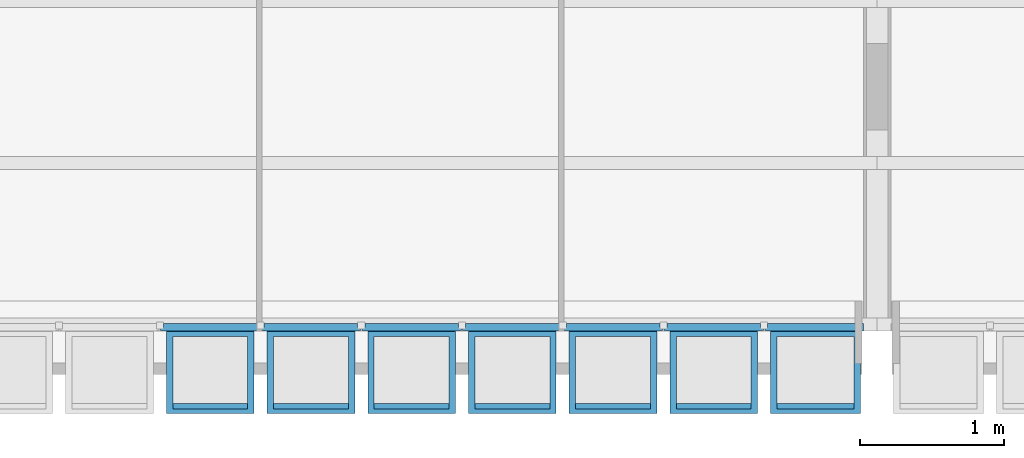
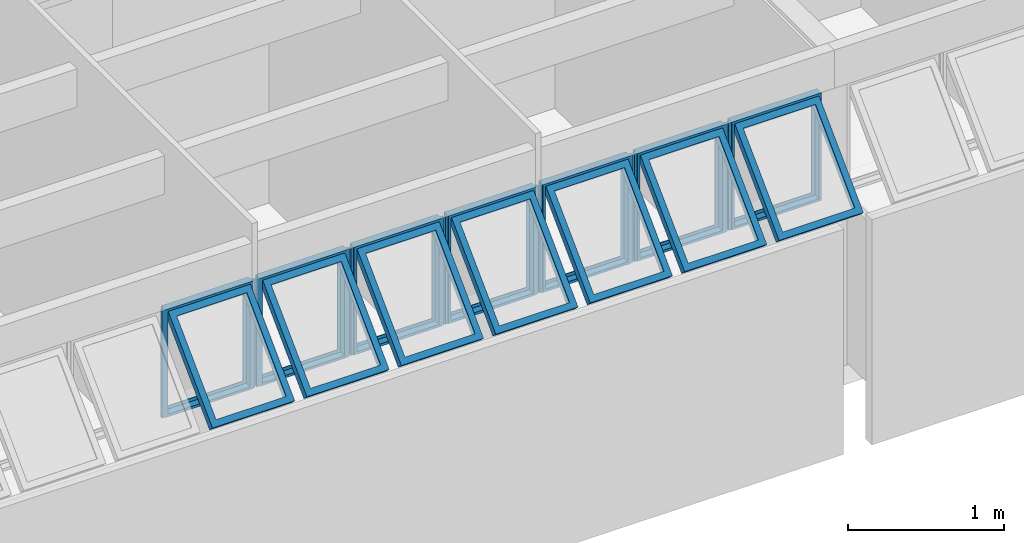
# One storey, part 27 of 37: 7 building element parts, 8 elements without a shape of their own.
"""IFC2X3 building model written with IfcOpenShell, lengths in millimetres."""

from ifc_helpers import new_model, entity, si_unit, converted_unit, derived_unit, money_unit, direction, frame, origin_with_axes, place, context, subcontext, project, spatial, faceted_brep, source, transform, mapped, material, type_object, element, aggregate, save


model = new_model("IFC2X3")

# Units and contexts
model_context = context("Model", 3, precision=0.01, world=origin_with_axes(), true_north=direction((0.0, 1.0)))
body_context = subcontext(model_context, "Body", "Model", "MODEL_VIEW")
ifc_project = project(units=[si_unit("LENGTHUNIT", "METRE", prefix="MILLI"), si_unit("AREAUNIT", "SQUARE_METRE"), si_unit("VOLUMEUNIT", "CUBIC_METRE"), converted_unit("PLANEANGLEUNIT", "DEGREE", entity("IfcPlaneAngleMeasure", 0.0174532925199), si_unit("PLANEANGLEUNIT", "RADIAN"), dimensions=[0, 0, 0, 0, 0, 0, 0]), money_unit("USD"), converted_unit("TIMEUNIT", "Year", entity("IfcTimeMeasure", 31556926.0), si_unit("TIMEUNIT", "SECOND"), dimensions=[0, 0, 1, 0, 0, 0, 0]), si_unit("MASSUNIT", "GRAM", prefix="KILO"), si_unit("THERMODYNAMICTEMPERATUREUNIT", "DEGREE_CELSIUS"), si_unit("LUMINOUSINTENSITYUNIT", "LUMEN"), si_unit("ENERGYUNIT", "JOULE", prefix="MEGA"), derived_unit("THERMALCONDUCTANCEUNIT", [(si_unit("POWERUNIT", "WATT"), 1), (si_unit("LENGTHUNIT", "METRE"), -1), (si_unit("THERMODYNAMICTEMPERATUREUNIT", "KELVIN"), -1)]), derived_unit("SPECIFICHEATCAPACITYUNIT", [(si_unit("ENERGYUNIT", "JOULE"), 1), (si_unit("MASSUNIT", "GRAM", prefix="KILO"), -1), (si_unit("THERMODYNAMICTEMPERATUREUNIT", "KELVIN"), -1)]), derived_unit("MASSDENSITYUNIT", [(si_unit("MASSUNIT", "GRAM", prefix="KILO"), 1), (si_unit("VOLUMEUNIT", "CUBIC_METRE"), -1)])], contexts=[model_context])

# Site, building, storey
site_placement = place(None, origin_with_axes())
site = spatial("IfcSite", under=ifc_project, at=site_placement, Name="Local", CompositionType="ELEMENT")
building_placement = place(site_placement, origin_with_axes())
building = spatial("IfcBuilding", under=site, at=building_placement, Name="Construção", CompositionType="ELEMENT")
storey_placement = place(building_placement, frame((0.0, 0.0, 5300.0), z_axis=(0.0, 0.0, 1.0), x_axis=(1.0, 0.0, 0.0)))
storey = spatial("IfcBuildingStorey", under=building, at=storey_placement, Name="Terceiro Pavimento", CompositionType="ELEMENT", Elevation=5300.0)

# Window, plates, building element parts
window_style = type_object("IfcWindowStyle", Name="Tipo de Parede Cortina", ConstructionType="NOTDEFINED", OperationType="NOTDEFINED", ParameterTakesPrecedence=False, Sizeable=False)
window_placement = place(storey_placement, frame((6250.0, 315.020977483, 1355.02054151), z_axis=(0.0, 0.0, 1.0), x_axis=(1.0, 0.0, 0.0)))
window = element("IfcWindow", 1, at=window_placement, inside=storey, type_object=window_style, Name="APTO9-JANELA-001")
plate_type_1 = type_object("IfcPlateType", Name="Painel Principal 690 x 845 x 20", PredefinedType="CURTAIN_PANEL")
plate_1_placement = place(window_placement, frame((0.0, 0.0, 422.499945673), z_axis=(0.0, 0.0, 1.0), x_axis=(-1.0, 0.0, 0.0)))
plate_1 = element("IfcPlate", 2, at=plate_1_placement, type_object=plate_type_1, Name="APTO9-Painel-Prin-030")
ifc_material = material(Name="Alumínio")
shared_shape_1 = source(origin_with_axes(), body_context, "Body", "Brep", [
    faceted_brep([(25.0000036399, 0.0, -40.0), (674.999997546, 0.0, -40.0), (674.999997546, 0.0, -35.0), (25.0000036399, 0.0, -35.0), (70.0000036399, 45.0, -40.0), (629.999997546, 45.0, -40.0), (629.999997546, 45.0, -35.0), (70.0000036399, 45.0, -35.0)], [[[0, 1, 2, 3]], [[0, 4, 5, 1]], [[1, 5, 6, 2]], [[3, 2, 6, 7]], [[4, 0, 3, 7]], [[5, 4, 7, 6]]]),
    faceted_brep([(674.999997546, 0.0, -40.0), (674.999997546, 844.999891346, -40.0), (674.999997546, 844.999891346, -35.0), (674.999997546, 0.0, -35.0), (629.999997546, 45.0, -40.0), (629.999997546, 799.999891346, -40.0), (629.999997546, 799.999891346, -35.0), (629.999997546, 45.0, -35.0)], [[[0, 1, 2, 3]], [[0, 4, 5, 1]], [[1, 5, 6, 2]], [[3, 2, 6, 7]], [[4, 0, 3, 7]], [[5, 4, 7, 6]]]),
    faceted_brep([(25.0000036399, 844.999891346, -40.0), (70.0000036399, 799.999891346, -40.0), (70.0000036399, 799.999891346, -35.0), (25.0000036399, 844.999891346, -35.0), (674.999997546, 844.999891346, -40.0), (629.999997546, 799.999891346, -40.0), (629.999997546, 799.999891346, -35.0), (674.999997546, 844.999891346, -35.0)], [[[0, 1, 2, 3]], [[0, 4, 5, 1]], [[1, 5, 6, 2]], [[3, 2, 6, 7]], [[4, 0, 3, 7]], [[5, 4, 7, 6]]]),
    faceted_brep([(25.0000036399, 0.0, -40.0), (70.0000036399, 45.0, -40.0), (70.0000036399, 45.0, -35.0), (25.0000036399, 0.0, -35.0), (25.0000036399, 844.999891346, -40.0), (70.0000036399, 799.999891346, -40.0), (70.0000036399, 799.999891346, -35.0), (25.0000036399, 844.999891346, -35.0)], [[[0, 1, 2, 3]], [[0, 4, 5, 1]], [[1, 5, 6, 2]], [[3, 2, 6, 7]], [[4, 0, 3, 7]], [[5, 4, 7, 6]]]),
    faceted_brep([(25.0000036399, 0.0, -35.0), (674.999997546, 0.0, -35.0), (674.999997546, 0.0, 15.0), (25.0000036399, 0.0, 15.0), (45.0000036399, 20.0, -35.0), (654.999997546, 20.0, -35.0), (654.999997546, 20.0, 15.0), (45.0000036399, 20.0, 15.0)], [[[0, 1, 2, 3]], [[0, 4, 5, 1]], [[1, 5, 6, 2]], [[3, 2, 6, 7]], [[4, 0, 3, 7]], [[5, 4, 7, 6]]]),
    faceted_brep([(674.999997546, 0.0, -35.0), (674.999997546, 844.999891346, -35.0), (674.999997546, 844.999891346, 15.0), (674.999997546, 0.0, 15.0), (654.999997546, 20.0, -35.0), (654.999997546, 824.999891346, -35.0), (654.999997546, 824.999891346, 15.0), (654.999997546, 20.0, 15.0)], [[[0, 1, 2, 3]], [[0, 4, 5, 1]], [[1, 5, 6, 2]], [[3, 2, 6, 7]], [[4, 0, 3, 7]], [[5, 4, 7, 6]]]),
    faceted_brep([(25.0000036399, 844.999891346, -35.0), (45.0000036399, 824.999891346, -35.0), (45.0000036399, 824.999891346, 15.0), (25.0000036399, 844.999891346, 15.0), (674.999997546, 844.999891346, -35.0), (654.999997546, 824.999891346, -35.0), (654.999997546, 824.999891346, 15.0), (674.999997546, 844.999891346, 15.0)], [[[0, 1, 2, 3]], [[0, 4, 5, 1]], [[1, 5, 6, 2]], [[3, 2, 6, 7]], [[4, 0, 3, 7]], [[5, 4, 7, 6]]]),
    faceted_brep([(25.0000036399, 0.0, -35.0), (45.0000036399, 20.0, -35.0), (45.0000036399, 20.0, 15.0), (25.0000036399, 0.0, 15.0), (25.0000036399, 844.999891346, -35.0), (45.0000036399, 824.999891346, -35.0), (45.0000036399, 824.999891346, 15.0), (25.0000036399, 844.999891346, 15.0)], [[[0, 1, 2, 3]], [[0, 4, 5, 1]], [[1, 5, 6, 2]], [[3, 2, 6, 7]], [[4, 0, 3, 7]], [[5, 4, 7, 6]]]),
    faceted_brep([(694.999995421, 0.0, -10.0), (694.999995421, 844.999891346, -10.0), (694.999995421, 844.999891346, 10.0), (694.999995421, 0.0, 10.0), (674.999997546, 0.0, -10.0), (674.999997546, 844.999891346, -10.0), (674.999997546, 844.999891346, 10.0), (674.999997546, 0.0, 10.0)], [[[0, 1, 2, 3]], [[0, 4, 5, 1]], [[1, 5, 6, 2]], [[3, 2, 6, 7]], [[4, 0, 3, 7]], [[5, 4, 7, 6]]]),
    faceted_brep([(5.00000576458, 844.999891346, -10.0), (5.00000576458, 0.0, -10.0), (5.00000576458, 0.0, 10.0), (5.00000576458, 844.999891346, 10.0), (25.0000036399, 844.999891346, -10.0), (25.0000036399, 0.0, -10.0), (25.0000036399, 0.0, 10.0), (25.0000036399, 844.999891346, 10.0)], [[[0, 1, 2, 3]], [[0, 4, 5, 1]], [[1, 5, 6, 2]], [[3, 2, 6, 7]], [[4, 0, 3, 7]], [[5, 4, 7, 6]]]),
    faceted_brep([(90.0000036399, 252.243475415, 517.045737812), (90.0000036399, 757.824747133, 11.4644660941), (90.0000036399, 796.715620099, 50.3553390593), (90.0000036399, 291.13434838, 555.936610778), (45.0000036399, 220.423670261, 548.865542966), (45.0000036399, 789.644552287, -20.3553390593), (45.0000036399, 828.535425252, 18.5355339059), (45.0000036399, 259.314543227, 587.756415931)], [[[0, 1, 2, 3]], [[0, 4, 5, 1]], [[1, 5, 6, 2]], [[3, 2, 6, 7]], [[4, 0, 3, 7]], [[5, 4, 7, 6]]]),
    faceted_brep([(654.999997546, 220.423670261, 548.865542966), (654.999997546, 789.644552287, -20.3553390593), (654.999997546, 828.535425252, 18.5355339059), (654.999997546, 259.314543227, 587.756415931), (609.999997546, 252.243475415, 517.045737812), (609.999997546, 757.824747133, 11.4644660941), (609.999997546, 796.715620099, 50.3553390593), (609.999997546, 291.13434838, 555.936610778)], [[[0, 1, 2, 3]], [[0, 4, 5, 1]], [[1, 5, 6, 2]], [[3, 2, 6, 7]], [[4, 0, 3, 7]], [[5, 4, 7, 6]]]),
    faceted_brep([(654.999997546, 220.423670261, 548.865542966), (609.999997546, 252.243475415, 517.045737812), (609.999997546, 291.13434838, 555.936610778), (654.999997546, 259.314543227, 587.756415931), (45.0000036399, 220.423670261, 548.865542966), (90.0000036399, 252.243475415, 517.045737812), (90.0000036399, 291.13434838, 555.936610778), (45.0000036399, 259.314543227, 587.756415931)], [[[0, 1, 2, 3]], [[0, 4, 5, 1]], [[1, 5, 6, 2]], [[3, 2, 6, 7]], [[4, 0, 3, 7]], [[5, 4, 7, 6]]]),
    faceted_brep([(45.0000036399, 789.644552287, -20.3553390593), (90.0000036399, 757.824747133, 11.4644660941), (90.0000036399, 796.715620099, 50.3553390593), (45.0000036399, 828.535425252, 18.5355339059), (654.999997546, 789.644552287, -20.3553390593), (609.999997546, 757.824747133, 11.4644660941), (609.999997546, 796.715620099, 50.3553390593), (654.999997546, 828.535425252, 18.5355339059)], [[[0, 1, 2, 3]], [[0, 4, 5, 1]], [[1, 5, 6, 2]], [[3, 2, 6, 7]], [[4, 0, 3, 7]], [[5, 4, 7, 6]]]),
])
building_element_part_1_placement = place(plate_1_placement, origin_with_axes())
building_element_part_1 = element("IfcBuildingElementPart", 3, at=building_element_part_1_placement, material=ifc_material, Name="Alumínio", context=body_context, shape_type="MappedRepresentation", body=[
    mapped(shared_shape_1, transform((350.0, 0.0, -422.499945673), x_axis=(-1.0, 0.0, 0.0), y_axis=(0.0, 0.0, 1.0), z_axis=(0.0, 1.0, 0.0))),
])
aggregate(plate_1, [building_element_part_1])
plate_2_placement = place(window_placement, frame((-700.0, 0.0, 422.499945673), z_axis=(0.0, 0.0, 1.0), x_axis=(-1.0, 0.0, 0.0)))
plate_2 = element("IfcPlate", 4, at=plate_2_placement, type_object=plate_type_1, Name="APTO9-Painel-Prin-020")
building_element_part_2_placement = place(plate_2_placement, origin_with_axes())
building_element_part_2 = element("IfcBuildingElementPart", 5, at=building_element_part_2_placement, material=ifc_material, Name="Alumínio", context=body_context, shape_type="MappedRepresentation", body=[
    mapped(shared_shape_1, transform((350.0, 0.0, -422.499945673), x_axis=(-1.0, 0.0, 0.0), y_axis=(0.0, 0.0, 1.0), z_axis=(0.0, 1.0, 0.0))),
])
aggregate(plate_2, [building_element_part_2])
plate_3_placement = place(window_placement, frame((-1400.0, 0.0, 422.499945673), z_axis=(0.0, 0.0, 1.0), x_axis=(-1.0, 0.0, 0.0)))
plate_3 = element("IfcPlate", 6, at=plate_3_placement, type_object=plate_type_1, Name="APTO9-Painel-Prin-029")
building_element_part_3_placement = place(plate_3_placement, origin_with_axes())
building_element_part_3 = element("IfcBuildingElementPart", 7, at=building_element_part_3_placement, material=ifc_material, Name="Alumínio", context=body_context, shape_type="MappedRepresentation", body=[
    mapped(shared_shape_1, transform((350.0, 0.0, -422.499945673), x_axis=(-1.0, 0.0, 0.0), y_axis=(0.0, 0.0, 1.0), z_axis=(0.0, 1.0, 0.0))),
])
aggregate(plate_3, [building_element_part_3])
plate_4_placement = place(window_placement, frame((-3500.0, 0.0, 422.499945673), z_axis=(0.0, 0.0, 1.0), x_axis=(-1.0, 0.0, 0.0)))
plate_4 = element("IfcPlate", 8, at=plate_4_placement, type_object=plate_type_1, Name="APTO9-Painel-Prin-013")
building_element_part_4_placement = place(plate_4_placement, origin_with_axes())
building_element_part_4 = element("IfcBuildingElementPart", 9, at=building_element_part_4_placement, material=ifc_material, Name="Alumínio", context=body_context, shape_type="MappedRepresentation", body=[
    mapped(shared_shape_1, transform((350.0, 0.0, -422.499945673), x_axis=(-1.0, 0.0, 0.0), y_axis=(0.0, 0.0, 1.0), z_axis=(0.0, 1.0, 0.0))),
])
aggregate(plate_4, [building_element_part_4])
plate_type_2 = type_object("IfcPlateType", Name="Painel Principal 685 x 845 x 20", PredefinedType="CURTAIN_PANEL")
plate_5_placement = place(window_placement, frame((695.000037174, 0.0, 422.499953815), z_axis=(0.0, 0.0, 1.0), x_axis=(-1.0, 0.0, 0.0)))
plate_5 = element("IfcPlate", 10, at=plate_5_placement, type_object=plate_type_2, Name="APTO9-Painel-Prin-031")
shared_shape_2 = source(origin_with_axes(), body_context, "Body", "Brep", [
    faceted_brep([(25.0000046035, 0.0, -40.0), (690.000079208, 0.0, -40.0), (690.000079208, 0.0, -35.0), (25.0000046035, 0.0, -35.0), (70.0000046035, 45.0, -40.0), (645.000079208, 45.0, -40.0), (645.000079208, 45.0, -35.0), (70.0000046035, 45.0, -35.0)], [[[0, 1, 2, 3]], [[0, 4, 5, 1]], [[1, 5, 6, 2]], [[3, 2, 6, 7]], [[4, 0, 3, 7]], [[5, 4, 7, 6]]]),
    faceted_brep([(690.000079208, 0.0, -40.0), (690.000079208, 844.999923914, -40.0), (690.000079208, 844.999923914, -35.0), (690.000079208, 0.0, -35.0), (645.000079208, 45.0, -40.0), (645.000079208, 799.999923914, -40.0), (645.000079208, 799.999923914, -35.0), (645.000079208, 45.0, -35.0)], [[[0, 1, 2, 3]], [[0, 4, 5, 1]], [[1, 5, 6, 2]], [[3, 2, 6, 7]], [[4, 0, 3, 7]], [[5, 4, 7, 6]]]),
    faceted_brep([(25.0000046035, 844.999923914, -40.0), (70.0000046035, 799.999923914, -40.0), (70.0000046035, 799.999923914, -35.0), (25.0000046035, 844.999923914, -35.0), (690.000079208, 844.999923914, -40.0), (645.000079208, 799.999923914, -40.0), (645.000079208, 799.999923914, -35.0), (690.000079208, 844.999923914, -35.0)], [[[0, 1, 2, 3]], [[0, 4, 5, 1]], [[1, 5, 6, 2]], [[3, 2, 6, 7]], [[4, 0, 3, 7]], [[5, 4, 7, 6]]]),
    faceted_brep([(25.0000046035, 0.0, -40.0), (70.0000046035, 45.0, -40.0), (70.0000046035, 45.0, -35.0), (25.0000046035, 0.0, -35.0), (25.0000046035, 844.999923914, -40.0), (70.0000046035, 799.999923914, -40.0), (70.0000046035, 799.999923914, -35.0), (25.0000046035, 844.999923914, -35.0)], [[[0, 1, 2, 3]], [[0, 4, 5, 1]], [[1, 5, 6, 2]], [[3, 2, 6, 7]], [[4, 0, 3, 7]], [[5, 4, 7, 6]]]),
    faceted_brep([(25.0000046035, 0.0, -35.0), (690.000079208, 0.0, -35.0), (690.000079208, 0.0, 15.0), (25.0000046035, 0.0, 15.0), (45.0000046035, 20.0, -35.0), (670.000079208, 20.0, -35.0), (670.000079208, 20.0, 15.0), (45.0000046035, 20.0, 15.0)], [[[0, 1, 2, 3]], [[0, 4, 5, 1]], [[1, 5, 6, 2]], [[3, 2, 6, 7]], [[4, 0, 3, 7]], [[5, 4, 7, 6]]]),
    faceted_brep([(690.000079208, 0.0, -35.0), (690.000079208, 844.999923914, -35.0), (690.000079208, 844.999923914, 15.0), (690.000079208, 0.0, 15.0), (670.000079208, 20.0, -35.0), (670.000079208, 824.999923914, -35.0), (670.000079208, 824.999923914, 15.0), (670.000079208, 20.0, 15.0)], [[[0, 1, 2, 3]], [[0, 4, 5, 1]], [[1, 5, 6, 2]], [[3, 2, 6, 7]], [[4, 0, 3, 7]], [[5, 4, 7, 6]]]),
    faceted_brep([(25.0000046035, 844.999923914, -35.0), (45.0000046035, 824.999923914, -35.0), (45.0000046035, 824.999923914, 15.0), (25.0000046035, 844.999923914, 15.0), (690.000079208, 844.999923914, -35.0), (670.000079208, 824.999923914, -35.0), (670.000079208, 824.999923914, 15.0), (690.000079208, 844.999923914, 15.0)], [[[0, 1, 2, 3]], [[0, 4, 5, 1]], [[1, 5, 6, 2]], [[3, 2, 6, 7]], [[4, 0, 3, 7]], [[5, 4, 7, 6]]]),
    faceted_brep([(25.0000046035, 0.0, -35.0), (45.0000046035, 20.0, -35.0), (45.0000046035, 20.0, 15.0), (25.0000046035, 0.0, 15.0), (25.0000046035, 844.999923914, -35.0), (45.0000046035, 824.999923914, -35.0), (45.0000046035, 824.999923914, 15.0), (25.0000046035, 844.999923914, 15.0)], [[[0, 1, 2, 3]], [[0, 4, 5, 1]], [[1, 5, 6, 2]], [[3, 2, 6, 7]], [[4, 0, 3, 7]], [[5, 4, 7, 6]]]),
    faceted_brep([(5.00000595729, 844.999923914, -10.0), (5.00000595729, 0.0, -10.0), (5.00000595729, 0.0, 10.0), (5.00000595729, 844.999923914, 10.0), (25.0000046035, 844.999923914, -10.0), (25.0000046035, 0.0, -10.0), (25.0000046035, 0.0, 10.0), (25.0000046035, 844.999923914, 10.0)], [[[0, 1, 2, 3]], [[0, 4, 5, 1]], [[1, 5, 6, 2]], [[3, 2, 6, 7]], [[4, 0, 3, 7]], [[5, 4, 7, 6]]]),
    faceted_brep([(90.0000046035, 252.243484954, 517.045760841), (90.0000046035, 757.824779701, 11.4644660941), (90.0000046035, 796.715652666, 50.3553390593), (90.0000046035, 291.134357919, 555.936633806), (45.0000046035, 220.4236798, 548.865565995), (45.0000046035, 789.644584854, -20.3553390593), (45.0000046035, 828.535457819, 18.5355339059), (45.0000046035, 259.314552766, 587.75643896)], [[[0, 1, 2, 3]], [[0, 4, 5, 1]], [[1, 5, 6, 2]], [[3, 2, 6, 7]], [[4, 0, 3, 7]], [[5, 4, 7, 6]]]),
    faceted_brep([(670.000079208, 220.4236798, 548.865565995), (670.000079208, 789.644584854, -20.3553390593), (670.000079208, 828.535457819, 18.5355339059), (670.000079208, 259.314552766, 587.75643896), (625.000079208, 252.243484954, 517.045760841), (625.000079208, 757.824779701, 11.4644660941), (625.000079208, 796.715652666, 50.3553390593), (625.000079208, 291.134357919, 555.936633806)], [[[0, 1, 2, 3]], [[0, 4, 5, 1]], [[1, 5, 6, 2]], [[3, 2, 6, 7]], [[4, 0, 3, 7]], [[5, 4, 7, 6]]]),
    faceted_brep([(670.000079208, 220.4236798, 548.865565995), (625.000079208, 252.243484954, 517.045760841), (625.000079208, 291.134357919, 555.936633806), (670.000079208, 259.314552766, 587.75643896), (45.0000046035, 220.4236798, 548.865565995), (90.0000046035, 252.243484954, 517.045760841), (90.0000046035, 291.134357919, 555.936633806), (45.0000046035, 259.314552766, 587.75643896)], [[[0, 1, 2, 3]], [[0, 4, 5, 1]], [[1, 5, 6, 2]], [[3, 2, 6, 7]], [[4, 0, 3, 7]], [[5, 4, 7, 6]]]),
    faceted_brep([(45.0000046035, 789.644584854, -20.3553390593), (90.0000046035, 757.824779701, 11.4644660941), (90.0000046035, 796.715652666, 50.3553390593), (45.0000046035, 828.535457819, 18.5355339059), (670.000079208, 789.644584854, -20.3553390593), (625.000079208, 757.824779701, 11.4644660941), (625.000079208, 796.715652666, 50.3553390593), (670.000079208, 828.535457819, 18.5355339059)], [[[0, 1, 2, 3]], [[0, 4, 5, 1]], [[1, 5, 6, 2]], [[3, 2, 6, 7]], [[4, 0, 3, 7]], [[5, 4, 7, 6]]]),
])
building_element_part_5_placement = place(plate_5_placement, origin_with_axes())
building_element_part_5 = element("IfcBuildingElementPart", 11, at=building_element_part_5_placement, material=ifc_material, Name="Alumínio", context=body_context, shape_type="MappedRepresentation", body=[
    mapped(shared_shape_2, transform((345.000037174, 0.0, -422.499953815), x_axis=(-1.0, 0.0, 0.0), y_axis=(0.0, 0.0, 1.0), z_axis=(0.0, 1.0, 0.0))),
])
aggregate(plate_5, [building_element_part_5])
plate_6_placement = place(window_placement, frame((-2100.0, 0.0, 422.499945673), z_axis=(0.0, 0.0, 1.0), x_axis=(-1.0, 0.0, 0.0)))
plate_6 = element("IfcPlate", 12, at=plate_6_placement, type_object=plate_type_1, Name="APTO9-Painel-Prin-025")
shared_shape_3 = source(origin_with_axes(), body_context, "Body", "Brep", [
    faceted_brep([(25.0000036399, 0.0, -40.0), (674.999997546, 0.0, -40.0), (674.999997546, 0.0, -35.0), (25.0000036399, 0.0, -35.0), (70.0000036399, 45.0, -40.0), (629.999997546, 45.0, -40.0), (629.999997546, 45.0, -35.0), (70.0000036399, 45.0, -35.0)], [[[0, 1, 2, 3]], [[0, 4, 5, 1]], [[1, 5, 6, 2]], [[3, 2, 6, 7]], [[4, 0, 3, 7]], [[5, 4, 7, 6]]]),
    faceted_brep([(674.999997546, 0.0, -40.0), (674.999997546, 844.999891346, -40.0), (674.999997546, 844.999891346, -35.0), (674.999997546, 0.0, -35.0), (629.999997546, 45.0, -40.0), (629.999997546, 799.999891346, -40.0), (629.999997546, 799.999891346, -35.0), (629.999997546, 45.0, -35.0)], [[[0, 1, 2, 3]], [[0, 4, 5, 1]], [[1, 5, 6, 2]], [[3, 2, 6, 7]], [[4, 0, 3, 7]], [[5, 4, 7, 6]]]),
    faceted_brep([(25.0000036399, 844.999891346, -40.0), (70.0000036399, 799.999891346, -40.0), (70.0000036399, 799.999891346, -35.0), (25.0000036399, 844.999891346, -35.0), (674.999997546, 844.999891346, -40.0), (629.999997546, 799.999891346, -40.0), (629.999997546, 799.999891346, -35.0), (674.999997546, 844.999891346, -35.0)], [[[0, 1, 2, 3]], [[0, 4, 5, 1]], [[1, 5, 6, 2]], [[3, 2, 6, 7]], [[4, 0, 3, 7]], [[5, 4, 7, 6]]]),
    faceted_brep([(25.0000036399, 0.0, -40.0), (70.0000036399, 45.0, -40.0), (70.0000036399, 45.0, -35.0), (25.0000036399, 0.0, -35.0), (25.0000036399, 844.999891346, -40.0), (70.0000036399, 799.999891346, -40.0), (70.0000036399, 799.999891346, -35.0), (25.0000036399, 844.999891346, -35.0)], [[[0, 1, 2, 3]], [[0, 4, 5, 1]], [[1, 5, 6, 2]], [[3, 2, 6, 7]], [[4, 0, 3, 7]], [[5, 4, 7, 6]]]),
    faceted_brep([(25.0000036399, 0.0, -35.0), (674.999997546, 0.0, -35.0), (674.999997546, 0.0, 15.0), (25.0000036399, 0.0, 15.0), (45.0000036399, 20.0, -35.0), (654.999997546, 20.0, -35.0), (654.999997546, 20.0, 15.0), (45.0000036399, 20.0, 15.0)], [[[0, 1, 2, 3]], [[0, 4, 5, 1]], [[1, 5, 6, 2]], [[3, 2, 6, 7]], [[4, 0, 3, 7]], [[5, 4, 7, 6]]]),
    faceted_brep([(674.999997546, 0.0, -35.0), (674.999997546, 844.999891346, -35.0), (674.999997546, 844.999891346, 15.0), (674.999997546, 0.0, 15.0), (654.999997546, 20.0, -35.0), (654.999997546, 824.999891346, -35.0), (654.999997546, 824.999891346, 15.0), (654.999997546, 20.0, 15.0)], [[[0, 1, 2, 3]], [[0, 4, 5, 1]], [[1, 5, 6, 2]], [[3, 2, 6, 7]], [[4, 0, 3, 7]], [[5, 4, 7, 6]]]),
    faceted_brep([(25.0000036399, 844.999891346, -35.0), (45.0000036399, 824.999891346, -35.0), (45.0000036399, 824.999891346, 15.0), (25.0000036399, 844.999891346, 15.0), (674.999997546, 844.999891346, -35.0), (654.999997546, 824.999891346, -35.0), (654.999997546, 824.999891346, 15.0), (674.999997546, 844.999891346, 15.0)], [[[0, 1, 2, 3]], [[0, 4, 5, 1]], [[1, 5, 6, 2]], [[3, 2, 6, 7]], [[4, 0, 3, 7]], [[5, 4, 7, 6]]]),
    faceted_brep([(25.0000036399, 0.0, -35.0), (45.0000036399, 20.0, -35.0), (45.0000036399, 20.0, 15.0), (25.0000036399, 0.0, 15.0), (25.0000036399, 844.999891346, -35.0), (45.0000036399, 824.999891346, -35.0), (45.0000036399, 824.999891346, 15.0), (25.0000036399, 844.999891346, 15.0)], [[[0, 1, 2, 3]], [[0, 4, 5, 1]], [[1, 5, 6, 2]], [[3, 2, 6, 7]], [[4, 0, 3, 7]], [[5, 4, 7, 6]]]),
    faceted_brep([(694.999995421, 0.0, -10.0), (694.999995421, 844.999891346, -10.0), (694.999995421, 844.999891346, 10.0), (694.999995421, 0.0, 10.0), (674.999997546, 0.0, -10.0), (674.999997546, 844.999891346, -10.0), (674.999997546, 844.999891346, 10.0), (674.999997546, 0.0, 10.0)], [[[0, 1, 2, 3]], [[0, 4, 5, 1]], [[1, 5, 6, 2]], [[3, 2, 6, 7]], [[4, 0, 3, 7]], [[5, 4, 7, 6]]]),
    faceted_brep([(5.00000576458, 844.999891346, -10.0), (5.00000576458, 0.0, -10.0), (5.00000576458, 0.0, 10.0), (5.00000576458, 844.999891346, 10.0), (25.0000036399, 844.999891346, -10.0), (25.0000036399, 0.0, -10.0), (25.0000036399, 0.0, 10.0), (25.0000036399, 844.999891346, 10.0)], [[[0, 1, 2, 3]], [[0, 4, 5, 1]], [[1, 5, 6, 2]], [[3, 2, 6, 7]], [[4, 0, 3, 7]], [[5, 4, 7, 6]]]),
    faceted_brep([(90.0000036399, 252.243475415, 517.045737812), (90.0000036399, 757.824747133, 11.4644660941), (90.0000036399, 796.715620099, 50.3553390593), (90.0000036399, 291.13434838, 555.936610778), (45.0000036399, 220.423670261, 548.865542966), (45.0000036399, 789.644552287, -20.3553390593), (45.0000036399, 828.535425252, 18.5355339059), (45.0000036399, 259.314543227, 587.756415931)], [[[0, 1, 2, 3]], [[0, 4, 5, 1]], [[1, 5, 6, 2]], [[3, 2, 6, 7]], [[4, 0, 3, 7]], [[5, 4, 7, 6]]]),
    faceted_brep([(654.999997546, 220.423670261, 548.865542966), (654.999997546, 789.644552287, -20.3553390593), (654.999997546, 828.535425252, 18.5355339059), (654.999997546, 259.314543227, 587.756415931), (609.999997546, 252.243475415, 517.045737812), (609.999997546, 757.824747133, 11.4644660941), (609.999997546, 796.715620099, 50.3553390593), (609.999997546, 291.13434838, 555.936610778)], [[[0, 1, 2, 3]], [[0, 4, 5, 1]], [[1, 5, 6, 2]], [[3, 2, 6, 7]], [[4, 0, 3, 7]], [[5, 4, 7, 6]]]),
    faceted_brep([(654.999997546, 220.423670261, 548.865542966), (609.999997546, 252.243475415, 517.045737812), (609.999997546, 291.13434838, 555.936610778), (654.999997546, 259.314543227, 587.756415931), (45.0000036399, 220.423670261, 548.865542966), (90.0000036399, 252.243475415, 517.045737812), (90.0000036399, 291.13434838, 555.936610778), (45.0000036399, 259.314543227, 587.756415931)], [[[0, 1, 2, 3]], [[0, 4, 5, 1]], [[1, 5, 6, 2]], [[3, 2, 6, 7]], [[4, 0, 3, 7]], [[5, 4, 7, 6]]]),
    faceted_brep([(45.0000036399, 789.644552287, -20.3553390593), (90.0000036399, 757.824747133, 11.4644660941), (90.0000036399, 796.715620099, 50.3553390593), (45.0000036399, 828.535425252, 18.5355339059), (654.999997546, 789.644552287, -20.3553390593), (609.999997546, 757.824747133, 11.4644660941), (609.999997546, 796.715620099, 50.3553390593), (654.999997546, 828.535425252, 18.5355339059)], [[[0, 1, 2, 3]], [[0, 4, 5, 1]], [[1, 5, 6, 2]], [[3, 2, 6, 7]], [[4, 0, 3, 7]], [[5, 4, 7, 6]]]),
])
building_element_part_6_placement = place(plate_6_placement, origin_with_axes())
building_element_part_6 = element("IfcBuildingElementPart", 13, at=building_element_part_6_placement, material=ifc_material, Name="Alumínio", context=body_context, shape_type="MappedRepresentation", body=[
    mapped(shared_shape_3, transform((350.0, 0.0, -422.499945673), x_axis=(-1.0, 0.0, 0.0), y_axis=(0.0, 0.0, 1.0), z_axis=(0.0, 1.0, 0.0))),
])
aggregate(plate_6, [building_element_part_6])
plate_7_placement = place(window_placement, frame((-2800.0, 0.0, 422.499945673), z_axis=(0.0, 0.0, 1.0), x_axis=(-1.0, 0.0, 0.0)))
plate_7 = element("IfcPlate", 14, at=plate_7_placement, type_object=plate_type_1, Name="APTO9-Painel-Prin-013")
aggregate(window, [plate_1, plate_5, plate_7, plate_6, plate_2, plate_3, plate_4])
shared_shape_4 = source(origin_with_axes(), body_context, "Body", "Brep", [
    faceted_brep([(25.0000036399, 0.0, -40.0), (674.999997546, 0.0, -40.0), (674.999997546, 0.0, -35.0), (25.0000036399, 0.0, -35.0), (70.0000036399, 45.0, -40.0), (629.999997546, 45.0, -40.0), (629.999997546, 45.0, -35.0), (70.0000036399, 45.0, -35.0)], [[[0, 1, 2, 3]], [[0, 4, 5, 1]], [[1, 5, 6, 2]], [[3, 2, 6, 7]], [[4, 0, 3, 7]], [[5, 4, 7, 6]]]),
    faceted_brep([(674.999997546, 0.0, -40.0), (674.999997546, 844.999891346, -40.0), (674.999997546, 844.999891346, -35.0), (674.999997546, 0.0, -35.0), (629.999997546, 45.0, -40.0), (629.999997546, 799.999891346, -40.0), (629.999997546, 799.999891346, -35.0), (629.999997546, 45.0, -35.0)], [[[0, 1, 2, 3]], [[0, 4, 5, 1]], [[1, 5, 6, 2]], [[3, 2, 6, 7]], [[4, 0, 3, 7]], [[5, 4, 7, 6]]]),
    faceted_brep([(25.0000036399, 844.999891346, -40.0), (70.0000036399, 799.999891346, -40.0), (70.0000036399, 799.999891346, -35.0), (25.0000036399, 844.999891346, -35.0), (674.999997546, 844.999891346, -40.0), (629.999997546, 799.999891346, -40.0), (629.999997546, 799.999891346, -35.0), (674.999997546, 844.999891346, -35.0)], [[[0, 1, 2, 3]], [[0, 4, 5, 1]], [[1, 5, 6, 2]], [[3, 2, 6, 7]], [[4, 0, 3, 7]], [[5, 4, 7, 6]]]),
    faceted_brep([(25.0000036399, 0.0, -40.0), (70.0000036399, 45.0, -40.0), (70.0000036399, 45.0, -35.0), (25.0000036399, 0.0, -35.0), (25.0000036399, 844.999891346, -40.0), (70.0000036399, 799.999891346, -40.0), (70.0000036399, 799.999891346, -35.0), (25.0000036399, 844.999891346, -35.0)], [[[0, 1, 2, 3]], [[0, 4, 5, 1]], [[1, 5, 6, 2]], [[3, 2, 6, 7]], [[4, 0, 3, 7]], [[5, 4, 7, 6]]]),
    faceted_brep([(25.0000036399, 0.0, -35.0), (674.999997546, 0.0, -35.0), (674.999997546, 0.0, 15.0), (25.0000036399, 0.0, 15.0), (45.0000036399, 20.0, -35.0), (654.999997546, 20.0, -35.0), (654.999997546, 20.0, 15.0), (45.0000036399, 20.0, 15.0)], [[[0, 1, 2, 3]], [[0, 4, 5, 1]], [[1, 5, 6, 2]], [[3, 2, 6, 7]], [[4, 0, 3, 7]], [[5, 4, 7, 6]]]),
    faceted_brep([(674.999997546, 0.0, -35.0), (674.999997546, 844.999891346, -35.0), (674.999997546, 844.999891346, 15.0), (674.999997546, 0.0, 15.0), (654.999997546, 20.0, -35.0), (654.999997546, 824.999891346, -35.0), (654.999997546, 824.999891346, 15.0), (654.999997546, 20.0, 15.0)], [[[0, 1, 2, 3]], [[0, 4, 5, 1]], [[1, 5, 6, 2]], [[3, 2, 6, 7]], [[4, 0, 3, 7]], [[5, 4, 7, 6]]]),
    faceted_brep([(25.0000036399, 844.999891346, -35.0), (45.0000036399, 824.999891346, -35.0), (45.0000036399, 824.999891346, 15.0), (25.0000036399, 844.999891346, 15.0), (674.999997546, 844.999891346, -35.0), (654.999997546, 824.999891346, -35.0), (654.999997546, 824.999891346, 15.0), (674.999997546, 844.999891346, 15.0)], [[[0, 1, 2, 3]], [[0, 4, 5, 1]], [[1, 5, 6, 2]], [[3, 2, 6, 7]], [[4, 0, 3, 7]], [[5, 4, 7, 6]]]),
    faceted_brep([(25.0000036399, 0.0, -35.0), (45.0000036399, 20.0, -35.0), (45.0000036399, 20.0, 15.0), (25.0000036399, 0.0, 15.0), (25.0000036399, 844.999891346, -35.0), (45.0000036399, 824.999891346, -35.0), (45.0000036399, 824.999891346, 15.0), (25.0000036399, 844.999891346, 15.0)], [[[0, 1, 2, 3]], [[0, 4, 5, 1]], [[1, 5, 6, 2]], [[3, 2, 6, 7]], [[4, 0, 3, 7]], [[5, 4, 7, 6]]]),
    faceted_brep([(694.999995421, 0.0, -10.0), (694.999995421, 844.999891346, -10.0), (694.999995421, 844.999891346, 10.0), (694.999995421, 0.0, 10.0), (674.999997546, 0.0, -10.0), (674.999997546, 844.999891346, -10.0), (674.999997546, 844.999891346, 10.0), (674.999997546, 0.0, 10.0)], [[[0, 1, 2, 3]], [[0, 4, 5, 1]], [[1, 5, 6, 2]], [[3, 2, 6, 7]], [[4, 0, 3, 7]], [[5, 4, 7, 6]]]),
    faceted_brep([(5.00000576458, 844.999891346, -10.0), (5.00000576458, 0.0, -10.0), (5.00000576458, 0.0, 10.0), (5.00000576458, 844.999891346, 10.0), (25.0000036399, 844.999891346, -10.0), (25.0000036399, 0.0, -10.0), (25.0000036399, 0.0, 10.0), (25.0000036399, 844.999891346, 10.0)], [[[0, 1, 2, 3]], [[0, 4, 5, 1]], [[1, 5, 6, 2]], [[3, 2, 6, 7]], [[4, 0, 3, 7]], [[5, 4, 7, 6]]]),
    faceted_brep([(90.0000036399, 252.243475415, 517.045737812), (90.0000036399, 757.824747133, 11.4644660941), (90.0000036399, 796.715620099, 50.3553390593), (90.0000036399, 291.13434838, 555.936610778), (45.0000036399, 220.423670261, 548.865542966), (45.0000036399, 789.644552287, -20.3553390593), (45.0000036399, 828.535425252, 18.5355339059), (45.0000036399, 259.314543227, 587.756415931)], [[[0, 1, 2, 3]], [[0, 4, 5, 1]], [[1, 5, 6, 2]], [[3, 2, 6, 7]], [[4, 0, 3, 7]], [[5, 4, 7, 6]]]),
    faceted_brep([(654.999997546, 220.423670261, 548.865542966), (654.999997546, 789.644552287, -20.3553390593), (654.999997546, 828.535425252, 18.5355339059), (654.999997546, 259.314543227, 587.756415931), (609.999997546, 252.243475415, 517.045737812), (609.999997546, 757.824747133, 11.4644660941), (609.999997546, 796.715620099, 50.3553390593), (609.999997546, 291.13434838, 555.936610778)], [[[0, 1, 2, 3]], [[0, 4, 5, 1]], [[1, 5, 6, 2]], [[3, 2, 6, 7]], [[4, 0, 3, 7]], [[5, 4, 7, 6]]]),
    faceted_brep([(654.999997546, 220.423670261, 548.865542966), (609.999997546, 252.243475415, 517.045737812), (609.999997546, 291.13434838, 555.936610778), (654.999997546, 259.314543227, 587.756415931), (45.0000036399, 220.423670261, 548.865542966), (90.0000036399, 252.243475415, 517.045737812), (90.0000036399, 291.13434838, 555.936610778), (45.0000036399, 259.314543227, 587.756415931)], [[[0, 1, 2, 3]], [[0, 4, 5, 1]], [[1, 5, 6, 2]], [[3, 2, 6, 7]], [[4, 0, 3, 7]], [[5, 4, 7, 6]]]),
    faceted_brep([(45.0000036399, 789.644552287, -20.3553390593), (90.0000036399, 757.824747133, 11.4644660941), (90.0000036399, 796.715620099, 50.3553390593), (45.0000036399, 828.535425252, 18.5355339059), (654.999997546, 789.644552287, -20.3553390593), (609.999997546, 757.824747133, 11.4644660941), (609.999997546, 796.715620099, 50.3553390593), (654.999997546, 828.535425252, 18.5355339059)], [[[0, 1, 2, 3]], [[0, 4, 5, 1]], [[1, 5, 6, 2]], [[3, 2, 6, 7]], [[4, 0, 3, 7]], [[5, 4, 7, 6]]]),
])
building_element_part_7_placement = place(plate_7_placement, origin_with_axes())
building_element_part_7 = element("IfcBuildingElementPart", 15, at=building_element_part_7_placement, material=ifc_material, Name="Alumínio", context=body_context, shape_type="MappedRepresentation", body=[
    mapped(shared_shape_4, transform((350.0, 0.0, -422.499945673), x_axis=(-1.0, 0.0, 0.0), y_axis=(0.0, 0.0, 1.0), z_axis=(0.0, 1.0, 0.0))),
])
aggregate(plate_7, [building_element_part_7])

save(model, "model.ifc")
